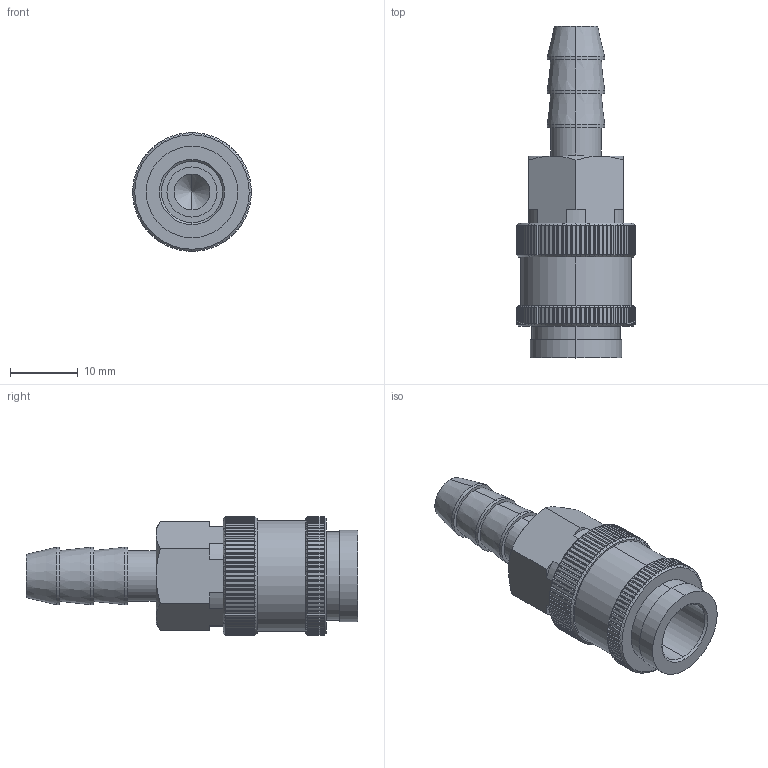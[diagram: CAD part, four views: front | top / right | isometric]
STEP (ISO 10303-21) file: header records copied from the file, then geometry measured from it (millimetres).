
FILE_DESCRIPTION (( 'STEP AP214' ), '1' );
FILE_NAME ('TZS-SH.STEP', '2022-04-26T15:52:57', ( '' ), ( '' ), 'SwSTEP 2.0', 'SolidWorks 2022', '' );
FILE_SCHEMA (( 'AUTOMOTIVE_DESIGN' ));
Length unit declared in the file: millimetre
Products named in the file (1): TZS-SH
Bounding box: 17.5 x 49 x 17.5 mm (x, y, z)
Volume: 5321 mm3; surface area: 3879.4 mm2
Topology: 1 solids, 1 shells, 563 faces, 1619 edges, 1070 vertices
Faces by surface type: plane 347, cylinder 191, cone 25
Entity records: 25319 total; most frequent: CARTESIAN_POINT 5243, ORIENTED_EDGE 3234, DIRECTION 2498, EDGE_CURVE 1617, VERTEX_POINT 1070, AXIS2_PLACEMENT_3D 969, B_SPLINE_CURVE_WITH_KNOTS 652, EDGE_LOOP 577
